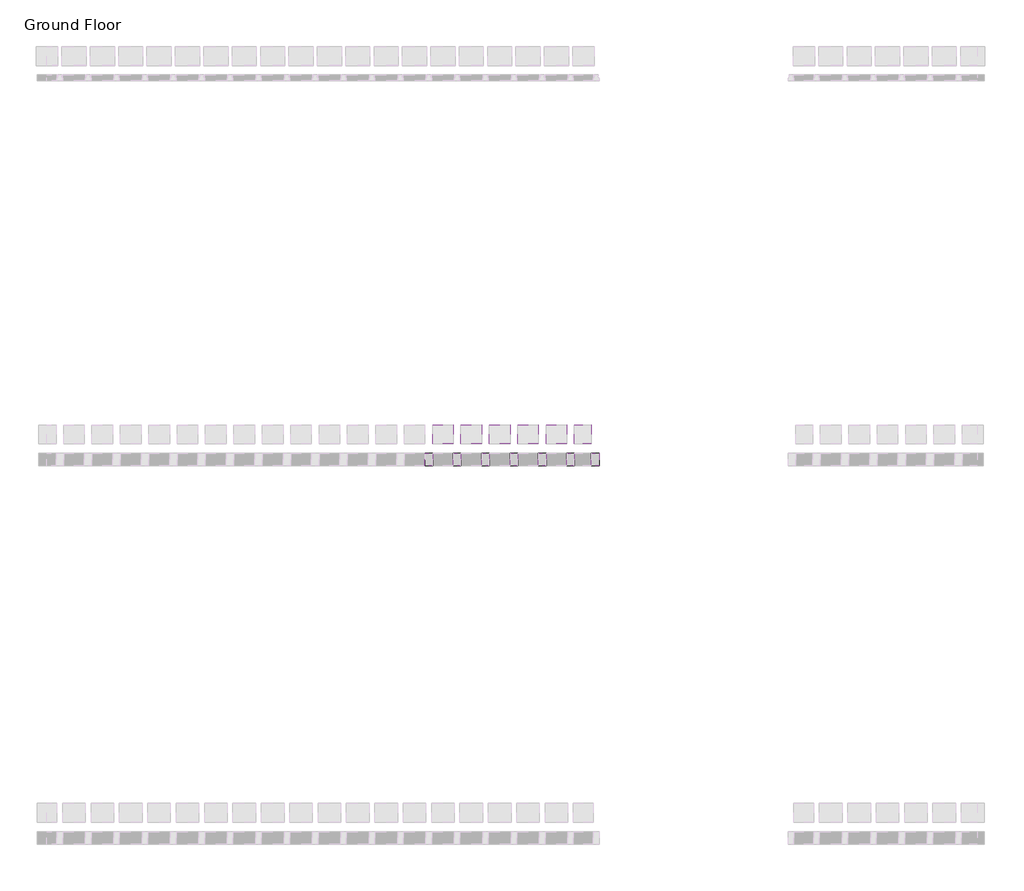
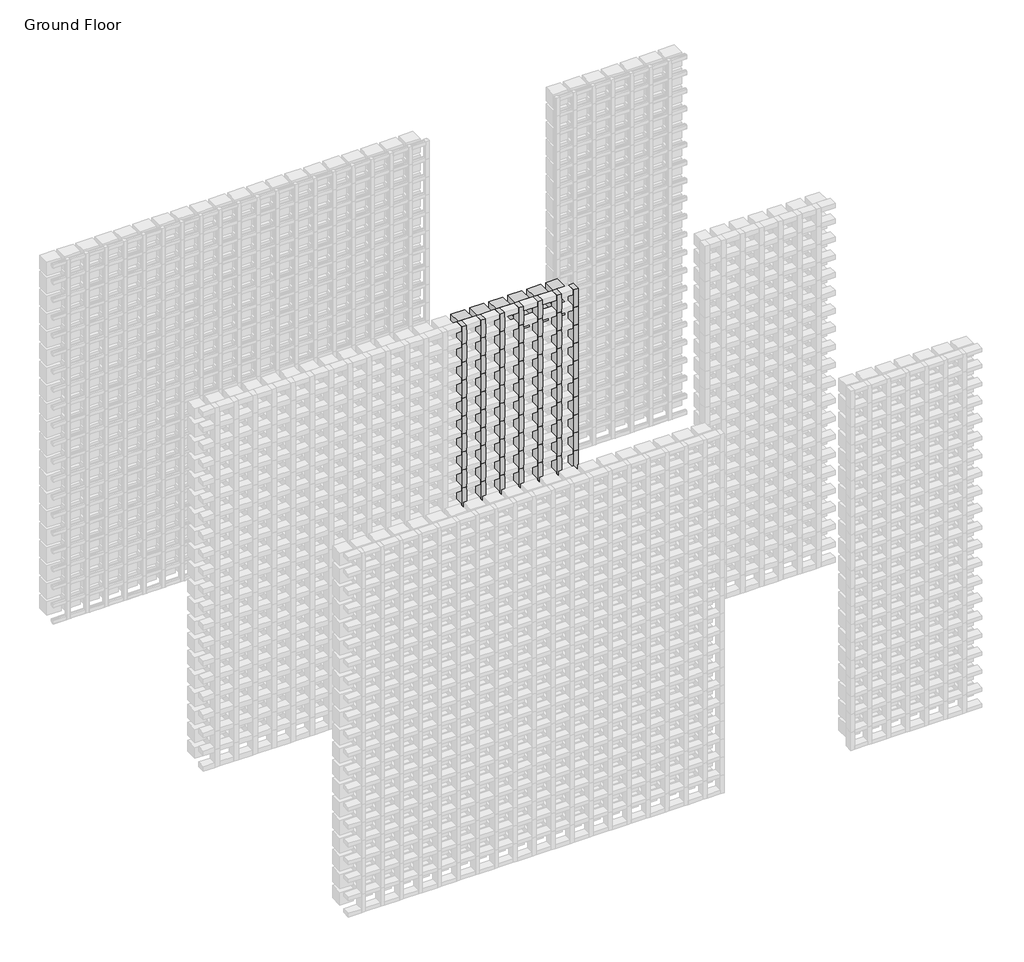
# One storey, part 142 of 350: 134 members, 9 plates.
"""IFC4 building model written with IfcOpenShell, lengths in millimetres."""

from ifc_helpers import new_model, si_unit, origin, place, context, project, spatial, transform, mapped, element, save
from components import rectangular_mullion_655930e9, rectangular_mullion_97e353d0, rectangular_mullion_f7732041, empty_system_panel_empty_571a4fa0, empty_system_panel_empty_3b500fad, empty_system_panel_empty_1faefc6a, empty_system_panel_empty_b6d7d726

model = new_model("IFC4")

# Units and contexts
model_context = context("Model", 3, world=origin())
ifc_project = project(units=[si_unit("LENGTHUNIT", "METRE", prefix="MILLI")], contexts=[model_context])

# Site, building, storey
site = spatial("IfcSite", under=ifc_project)
building = spatial("IfcBuilding", under=site)
storey = spatial("IfcBuildingStorey", under=building, Name="Ground Floor", Elevation=0.0)

# Members
placement = place(None, origin())
rectangular_mullion_shape = rectangular_mullion_655930e9(model_context)
element("IfcMember", 1, ObjectType="Rectangular Mullion : Batten_Timber_Modinex_Austratus_Grid_Fascia_40x65_Hemlock", at=placement, inside=storey, context=model_context, shape_type="MappedRepresentation", body=[
    mapped(rectangular_mullion_shape, transform((12016.4361642, 40968.2978302, 150.0), x_axis=(1.0, 0.0, 0.0), y_axis=(0.0, -1.0, 0.0), z_axis=(0.0, 0.0, -1.0))),
])
element("IfcMember", 2, ObjectType="Rectangular Mullion : Batten_Timber_Modinex_Austratus_Grid_Fascia_40x65_Hemlock", at=placement, inside=storey, context=model_context, shape_type="MappedRepresentation", body=[
    mapped(rectangular_mullion_shape, transform((12016.4361642, 40968.2978302, 300.0), x_axis=(1.0, 0.0, 0.0), y_axis=(0.0, -1.0, 0.0), z_axis=(0.0, 0.0, -1.0))),
])
element("IfcMember", 3, ObjectType="Rectangular Mullion : Batten_Timber_Modinex_Austratus_Grid_Fascia_40x65_Hemlock", at=placement, inside=storey, context=model_context, shape_type="MappedRepresentation", body=[
    mapped(rectangular_mullion_shape, transform((12016.4361642, 40968.2978302, 450.0), x_axis=(1.0, 0.0, 0.0), y_axis=(0.0, -1.0, 0.0), z_axis=(0.0, 0.0, -1.0))),
])
element("IfcMember", 4, ObjectType="Rectangular Mullion : Batten_Timber_Modinex_Austratus_Grid_Fascia_40x65_Hemlock", at=placement, inside=storey, context=model_context, shape_type="MappedRepresentation", body=[
    mapped(rectangular_mullion_shape, transform((12016.4361642, 40968.2978302, 600.0), x_axis=(1.0, 0.0, 0.0), y_axis=(0.0, -1.0, 0.0), z_axis=(0.0, 0.0, -1.0))),
])
element("IfcMember", 5, ObjectType="Rectangular Mullion : Batten_Timber_Modinex_Austratus_Grid_Fascia_40x65_Hemlock", at=placement, inside=storey, context=model_context, shape_type="MappedRepresentation", body=[
    mapped(rectangular_mullion_shape, transform((12016.4361642, 40968.2978302, 750.0), x_axis=(1.0, 0.0, 0.0), y_axis=(0.0, -1.0, 0.0), z_axis=(0.0, 0.0, -1.0))),
])
element("IfcMember", 6, ObjectType="Rectangular Mullion : Batten_Timber_Modinex_Austratus_Grid_Fascia_40x65_Hemlock", at=placement, inside=storey, context=model_context, shape_type="MappedRepresentation", body=[
    mapped(rectangular_mullion_shape, transform((12016.4361642, 40968.2978302, 900.0), x_axis=(1.0, 0.0, 0.0), y_axis=(0.0, -1.0, 0.0), z_axis=(0.0, 0.0, -1.0))),
])
element("IfcMember", 7, ObjectType="Rectangular Mullion : Batten_Timber_Modinex_Austratus_Grid_Fascia_40x65_Hemlock", at=placement, inside=storey, context=model_context, shape_type="MappedRepresentation", body=[
    mapped(rectangular_mullion_shape, transform((12016.4361642, 40968.2978302, 1050.0), x_axis=(1.0, 0.0, 0.0), y_axis=(0.0, -1.0, 0.0), z_axis=(0.0, 0.0, -1.0))),
])
element("IfcMember", 8, ObjectType="Rectangular Mullion : Batten_Timber_Modinex_Austratus_Grid_Fascia_40x65_Hemlock", at=placement, inside=storey, context=model_context, shape_type="MappedRepresentation", body=[
    mapped(rectangular_mullion_shape, transform((12016.4361642, 40968.2978302, 1200.0), x_axis=(1.0, 0.0, 0.0), y_axis=(0.0, -1.0, 0.0), z_axis=(0.0, 0.0, -1.0))),
])
element("IfcMember", 9, ObjectType="Rectangular Mullion : Batten_Timber_Modinex_Austratus_Grid_Fascia_40x65_Hemlock", at=placement, inside=storey, context=model_context, shape_type="MappedRepresentation", body=[
    mapped(rectangular_mullion_shape, transform((12016.4361642, 40968.2978302, 1350.0), x_axis=(1.0, 0.0, 0.0), y_axis=(0.0, -1.0, 0.0), z_axis=(0.0, 0.0, -1.0))),
])
element("IfcMember", 10, ObjectType="Rectangular Mullion : Batten_Timber_Modinex_Austratus_Grid_Fascia_40x65_Hemlock", at=placement, inside=storey, context=model_context, shape_type="MappedRepresentation", body=[
    mapped(rectangular_mullion_shape, transform((12016.4361642, 40968.2978302, 1500.0), x_axis=(1.0, 0.0, 0.0), y_axis=(0.0, -1.0, 0.0), z_axis=(0.0, 0.0, -1.0))),
])
element("IfcMember", 11, ObjectType="Rectangular Mullion : Batten_Timber_Modinex_Austratus_Grid_Fascia_40x65_Hemlock", at=placement, inside=storey, context=model_context, shape_type="MappedRepresentation", body=[
    mapped(rectangular_mullion_shape, transform((12016.4361642, 40968.2978302, 1650.0), x_axis=(1.0, 0.0, 0.0), y_axis=(0.0, -1.0, 0.0), z_axis=(0.0, 0.0, -1.0))),
])
element("IfcMember", 12, ObjectType="Rectangular Mullion : Batten_Timber_Modinex_Austratus_Grid_Fascia_40x65_Hemlock", at=placement, inside=storey, context=model_context, shape_type="MappedRepresentation", body=[
    mapped(rectangular_mullion_shape, transform((12016.4361642, 40968.2978302, 1800.0), x_axis=(1.0, 0.0, 0.0), y_axis=(0.0, -1.0, 0.0), z_axis=(0.0, 0.0, -1.0))),
])
element("IfcMember", 13, ObjectType="Rectangular Mullion : Batten_Timber_Modinex_Austratus_Grid_Fascia_40x65_Hemlock", at=placement, inside=storey, context=model_context, shape_type="MappedRepresentation", body=[
    mapped(rectangular_mullion_shape, transform((12016.4361642, 40968.2978302, 1950.0), x_axis=(1.0, 0.0, 0.0), y_axis=(0.0, -1.0, 0.0), z_axis=(0.0, 0.0, -1.0))),
])
element("IfcMember", 14, ObjectType="Rectangular Mullion : Batten_Timber_Modinex_Austratus_Grid_Fascia_40x65_Hemlock", at=placement, inside=storey, context=model_context, shape_type="MappedRepresentation", body=[
    mapped(rectangular_mullion_shape, transform((12016.4361642, 40968.2978302, 2100.0), x_axis=(1.0, 0.0, 0.0), y_axis=(0.0, -1.0, 0.0), z_axis=(0.0, 0.0, -1.0))),
])
element("IfcMember", 15, ObjectType="Rectangular Mullion : Batten_Timber_Modinex_Austratus_Grid_Fascia_40x65_Hemlock", at=placement, inside=storey, context=model_context, shape_type="MappedRepresentation", body=[
    mapped(rectangular_mullion_shape, transform((12016.4361642, 40968.2978302, 2250.0), x_axis=(1.0, 0.0, 0.0), y_axis=(0.0, -1.0, 0.0), z_axis=(0.0, 0.0, -1.0))),
])
element("IfcMember", 16, ObjectType="Rectangular Mullion : Batten_Timber_Modinex_Austratus_Grid_Fascia_40x65_Hemlock", at=placement, inside=storey, context=model_context, shape_type="MappedRepresentation", body=[
    mapped(rectangular_mullion_shape, transform((12016.4361642, 40968.2978302, 2400.0), x_axis=(1.0, 0.0, 0.0), y_axis=(0.0, -1.0, 0.0), z_axis=(0.0, 0.0, -1.0))),
])
element("IfcMember", 17, ObjectType="Rectangular Mullion : Batten_Timber_Modinex_Austratus_Grid_Fascia_40x65_Hemlock", at=placement, inside=storey, context=model_context, shape_type="MappedRepresentation", body=[
    mapped(rectangular_mullion_shape, transform((12016.4361642, 40968.2978302, 2550.0), x_axis=(1.0, 0.0, 0.0), y_axis=(0.0, -1.0, 0.0), z_axis=(0.0, 0.0, -1.0))),
])
element("IfcMember", 18, ObjectType="Rectangular Mullion : Batten_Timber_Modinex_Austratus_Grid_Fascia_40x65_Hemlock", at=placement, inside=storey, context=model_context, shape_type="MappedRepresentation", body=[
    mapped(rectangular_mullion_shape, transform((12016.4361642, 40968.2978302, 2700.0), x_axis=(1.0, 0.0, 0.0), y_axis=(0.0, -1.0, 0.0), z_axis=(0.0, 0.0, -1.0))),
])
element("IfcMember", 19, ObjectType="Rectangular Mullion : Batten_Timber_Modinex_Austratus_Grid_Fascia_40x65_Hemlock", at=placement, inside=storey, context=model_context, shape_type="MappedRepresentation", body=[
    mapped(rectangular_mullion_shape, transform((12166.4361642, 40968.2978302, 150.0), x_axis=(1.0, 0.0, 0.0), y_axis=(0.0, -1.0, 0.0), z_axis=(0.0, 0.0, -1.0))),
])
element("IfcMember", 20, ObjectType="Rectangular Mullion : Batten_Timber_Modinex_Austratus_Grid_Fascia_40x65_Hemlock", at=placement, inside=storey, context=model_context, shape_type="MappedRepresentation", body=[
    mapped(rectangular_mullion_shape, transform((12166.4361642, 40968.2978302, 300.0), x_axis=(1.0, 0.0, 0.0), y_axis=(0.0, -1.0, 0.0), z_axis=(0.0, 0.0, -1.0))),
])
element("IfcMember", 21, ObjectType="Rectangular Mullion : Batten_Timber_Modinex_Austratus_Grid_Fascia_40x65_Hemlock", at=placement, inside=storey, context=model_context, shape_type="MappedRepresentation", body=[
    mapped(rectangular_mullion_shape, transform((12166.4361642, 40968.2978302, 450.0), x_axis=(1.0, 0.0, 0.0), y_axis=(0.0, -1.0, 0.0), z_axis=(0.0, 0.0, -1.0))),
])
element("IfcMember", 22, ObjectType="Rectangular Mullion : Batten_Timber_Modinex_Austratus_Grid_Fascia_40x65_Hemlock", at=placement, inside=storey, context=model_context, shape_type="MappedRepresentation", body=[
    mapped(rectangular_mullion_shape, transform((12166.4361642, 40968.2978302, 600.0), x_axis=(1.0, 0.0, 0.0), y_axis=(0.0, -1.0, 0.0), z_axis=(0.0, 0.0, -1.0))),
])
element("IfcMember", 23, ObjectType="Rectangular Mullion : Batten_Timber_Modinex_Austratus_Grid_Fascia_40x65_Hemlock", at=placement, inside=storey, context=model_context, shape_type="MappedRepresentation", body=[
    mapped(rectangular_mullion_shape, transform((12166.4361642, 40968.2978302, 750.0), x_axis=(1.0, 0.0, 0.0), y_axis=(0.0, -1.0, 0.0), z_axis=(0.0, 0.0, -1.0))),
])
element("IfcMember", 24, ObjectType="Rectangular Mullion : Batten_Timber_Modinex_Austratus_Grid_Fascia_40x65_Hemlock", at=placement, inside=storey, context=model_context, shape_type="MappedRepresentation", body=[
    mapped(rectangular_mullion_shape, transform((12166.4361642, 40968.2978302, 900.0), x_axis=(1.0, 0.0, 0.0), y_axis=(0.0, -1.0, 0.0), z_axis=(0.0, 0.0, -1.0))),
])
element("IfcMember", 25, ObjectType="Rectangular Mullion : Batten_Timber_Modinex_Austratus_Grid_Fascia_40x65_Hemlock", at=placement, inside=storey, context=model_context, shape_type="MappedRepresentation", body=[
    mapped(rectangular_mullion_shape, transform((12166.4361642, 40968.2978302, 1050.0), x_axis=(1.0, 0.0, 0.0), y_axis=(0.0, -1.0, 0.0), z_axis=(0.0, 0.0, -1.0))),
])
element("IfcMember", 26, ObjectType="Rectangular Mullion : Batten_Timber_Modinex_Austratus_Grid_Fascia_40x65_Hemlock", at=placement, inside=storey, context=model_context, shape_type="MappedRepresentation", body=[
    mapped(rectangular_mullion_shape, transform((12166.4361642, 40968.2978302, 1200.0), x_axis=(1.0, 0.0, 0.0), y_axis=(0.0, -1.0, 0.0), z_axis=(0.0, 0.0, -1.0))),
])
element("IfcMember", 27, ObjectType="Rectangular Mullion : Batten_Timber_Modinex_Austratus_Grid_Fascia_40x65_Hemlock", at=placement, inside=storey, context=model_context, shape_type="MappedRepresentation", body=[
    mapped(rectangular_mullion_shape, transform((12166.4361642, 40968.2978302, 1350.0), x_axis=(1.0, 0.0, 0.0), y_axis=(0.0, -1.0, 0.0), z_axis=(0.0, 0.0, -1.0))),
])
element("IfcMember", 28, ObjectType="Rectangular Mullion : Batten_Timber_Modinex_Austratus_Grid_Fascia_40x65_Hemlock", at=placement, inside=storey, context=model_context, shape_type="MappedRepresentation", body=[
    mapped(rectangular_mullion_shape, transform((12166.4361642, 40968.2978302, 1500.0), x_axis=(1.0, 0.0, 0.0), y_axis=(0.0, -1.0, 0.0), z_axis=(0.0, 0.0, -1.0))),
])
element("IfcMember", 29, ObjectType="Rectangular Mullion : Batten_Timber_Modinex_Austratus_Grid_Fascia_40x65_Hemlock", at=placement, inside=storey, context=model_context, shape_type="MappedRepresentation", body=[
    mapped(rectangular_mullion_shape, transform((12166.4361642, 40968.2978302, 1650.0), x_axis=(1.0, 0.0, 0.0), y_axis=(0.0, -1.0, 0.0), z_axis=(0.0, 0.0, -1.0))),
])
element("IfcMember", 30, ObjectType="Rectangular Mullion : Batten_Timber_Modinex_Austratus_Grid_Fascia_40x65_Hemlock", at=placement, inside=storey, context=model_context, shape_type="MappedRepresentation", body=[
    mapped(rectangular_mullion_shape, transform((12166.4361642, 40968.2978302, 1800.0), x_axis=(1.0, 0.0, 0.0), y_axis=(0.0, -1.0, 0.0), z_axis=(0.0, 0.0, -1.0))),
])
element("IfcMember", 31, ObjectType="Rectangular Mullion : Batten_Timber_Modinex_Austratus_Grid_Fascia_40x65_Hemlock", at=placement, inside=storey, context=model_context, shape_type="MappedRepresentation", body=[
    mapped(rectangular_mullion_shape, transform((12166.4361642, 40968.2978302, 1950.0), x_axis=(1.0, 0.0, 0.0), y_axis=(0.0, -1.0, 0.0), z_axis=(0.0, 0.0, -1.0))),
])
element("IfcMember", 32, ObjectType="Rectangular Mullion : Batten_Timber_Modinex_Austratus_Grid_Fascia_40x65_Hemlock", at=placement, inside=storey, context=model_context, shape_type="MappedRepresentation", body=[
    mapped(rectangular_mullion_shape, transform((12166.4361642, 40968.2978302, 2100.0), x_axis=(1.0, 0.0, 0.0), y_axis=(0.0, -1.0, 0.0), z_axis=(0.0, 0.0, -1.0))),
])
element("IfcMember", 33, ObjectType="Rectangular Mullion : Batten_Timber_Modinex_Austratus_Grid_Fascia_40x65_Hemlock", at=placement, inside=storey, context=model_context, shape_type="MappedRepresentation", body=[
    mapped(rectangular_mullion_shape, transform((12166.4361642, 40968.2978302, 2250.0), x_axis=(1.0, 0.0, 0.0), y_axis=(0.0, -1.0, 0.0), z_axis=(0.0, 0.0, -1.0))),
])
element("IfcMember", 34, ObjectType="Rectangular Mullion : Batten_Timber_Modinex_Austratus_Grid_Fascia_40x65_Hemlock", at=placement, inside=storey, context=model_context, shape_type="MappedRepresentation", body=[
    mapped(rectangular_mullion_shape, transform((12166.4361642, 40968.2978302, 2400.0), x_axis=(1.0, 0.0, 0.0), y_axis=(0.0, -1.0, 0.0), z_axis=(0.0, 0.0, -1.0))),
])
element("IfcMember", 35, ObjectType="Rectangular Mullion : Batten_Timber_Modinex_Austratus_Grid_Fascia_40x65_Hemlock", at=placement, inside=storey, context=model_context, shape_type="MappedRepresentation", body=[
    mapped(rectangular_mullion_shape, transform((12166.4361642, 40968.2978302, 2550.0), x_axis=(1.0, 0.0, 0.0), y_axis=(0.0, -1.0, 0.0), z_axis=(0.0, 0.0, -1.0))),
])
element("IfcMember", 36, ObjectType="Rectangular Mullion : Batten_Timber_Modinex_Austratus_Grid_Fascia_40x65_Hemlock", at=placement, inside=storey, context=model_context, shape_type="MappedRepresentation", body=[
    mapped(rectangular_mullion_shape, transform((12166.4361642, 40968.2978302, 2700.0), x_axis=(1.0, 0.0, 0.0), y_axis=(0.0, -1.0, 0.0), z_axis=(0.0, 0.0, -1.0))),
])
element("IfcMember", 37, ObjectType="Rectangular Mullion : Batten_Timber_Modinex_Austratus_Grid_Fascia_40x65_Hemlock", at=placement, inside=storey, context=model_context, shape_type="MappedRepresentation", body=[
    mapped(rectangular_mullion_shape, transform((12316.4361642, 40968.2978302, 150.0), x_axis=(1.0, 0.0, 0.0), y_axis=(0.0, -1.0, 0.0), z_axis=(0.0, 0.0, -1.0))),
])
element("IfcMember", 38, ObjectType="Rectangular Mullion : Batten_Timber_Modinex_Austratus_Grid_Fascia_40x65_Hemlock", at=placement, inside=storey, context=model_context, shape_type="MappedRepresentation", body=[
    mapped(rectangular_mullion_shape, transform((12316.4361642, 40968.2978302, 300.0), x_axis=(1.0, 0.0, 0.0), y_axis=(0.0, -1.0, 0.0), z_axis=(0.0, 0.0, -1.0))),
])
element("IfcMember", 39, ObjectType="Rectangular Mullion : Batten_Timber_Modinex_Austratus_Grid_Fascia_40x65_Hemlock", at=placement, inside=storey, context=model_context, shape_type="MappedRepresentation", body=[
    mapped(rectangular_mullion_shape, transform((12316.4361642, 40968.2978302, 450.0), x_axis=(1.0, 0.0, 0.0), y_axis=(0.0, -1.0, 0.0), z_axis=(0.0, 0.0, -1.0))),
])
element("IfcMember", 40, ObjectType="Rectangular Mullion : Batten_Timber_Modinex_Austratus_Grid_Fascia_40x65_Hemlock", at=placement, inside=storey, context=model_context, shape_type="MappedRepresentation", body=[
    mapped(rectangular_mullion_shape, transform((12316.4361642, 40968.2978302, 600.0), x_axis=(1.0, 0.0, 0.0), y_axis=(0.0, -1.0, 0.0), z_axis=(0.0, 0.0, -1.0))),
])
element("IfcMember", 41, ObjectType="Rectangular Mullion : Batten_Timber_Modinex_Austratus_Grid_Fascia_40x65_Hemlock", at=placement, inside=storey, context=model_context, shape_type="MappedRepresentation", body=[
    mapped(rectangular_mullion_shape, transform((12316.4361642, 40968.2978302, 750.0), x_axis=(1.0, 0.0, 0.0), y_axis=(0.0, -1.0, 0.0), z_axis=(0.0, 0.0, -1.0))),
])
element("IfcMember", 42, ObjectType="Rectangular Mullion : Batten_Timber_Modinex_Austratus_Grid_Fascia_40x65_Hemlock", at=placement, inside=storey, context=model_context, shape_type="MappedRepresentation", body=[
    mapped(rectangular_mullion_shape, transform((12316.4361642, 40968.2978302, 900.0), x_axis=(1.0, 0.0, 0.0), y_axis=(0.0, -1.0, 0.0), z_axis=(0.0, 0.0, -1.0))),
])
element("IfcMember", 43, ObjectType="Rectangular Mullion : Batten_Timber_Modinex_Austratus_Grid_Fascia_40x65_Hemlock", at=placement, inside=storey, context=model_context, shape_type="MappedRepresentation", body=[
    mapped(rectangular_mullion_shape, transform((12316.4361642, 40968.2978302, 1050.0), x_axis=(1.0, 0.0, 0.0), y_axis=(0.0, -1.0, 0.0), z_axis=(0.0, 0.0, -1.0))),
])
element("IfcMember", 44, ObjectType="Rectangular Mullion : Batten_Timber_Modinex_Austratus_Grid_Fascia_40x65_Hemlock", at=placement, inside=storey, context=model_context, shape_type="MappedRepresentation", body=[
    mapped(rectangular_mullion_shape, transform((12316.4361642, 40968.2978302, 1200.0), x_axis=(1.0, 0.0, 0.0), y_axis=(0.0, -1.0, 0.0), z_axis=(0.0, 0.0, -1.0))),
])
element("IfcMember", 45, ObjectType="Rectangular Mullion : Batten_Timber_Modinex_Austratus_Grid_Fascia_40x65_Hemlock", at=placement, inside=storey, context=model_context, shape_type="MappedRepresentation", body=[
    mapped(rectangular_mullion_shape, transform((12316.4361642, 40968.2978302, 1350.0), x_axis=(1.0, 0.0, 0.0), y_axis=(0.0, -1.0, 0.0), z_axis=(0.0, 0.0, -1.0))),
])
element("IfcMember", 46, ObjectType="Rectangular Mullion : Batten_Timber_Modinex_Austratus_Grid_Fascia_40x65_Hemlock", at=placement, inside=storey, context=model_context, shape_type="MappedRepresentation", body=[
    mapped(rectangular_mullion_shape, transform((12316.4361642, 40968.2978302, 1500.0), x_axis=(1.0, 0.0, 0.0), y_axis=(0.0, -1.0, 0.0), z_axis=(0.0, 0.0, -1.0))),
])
element("IfcMember", 47, ObjectType="Rectangular Mullion : Batten_Timber_Modinex_Austratus_Grid_Fascia_40x65_Hemlock", at=placement, inside=storey, context=model_context, shape_type="MappedRepresentation", body=[
    mapped(rectangular_mullion_shape, transform((12316.4361642, 40968.2978302, 1650.0), x_axis=(1.0, 0.0, 0.0), y_axis=(0.0, -1.0, 0.0), z_axis=(0.0, 0.0, -1.0))),
])
element("IfcMember", 48, ObjectType="Rectangular Mullion : Batten_Timber_Modinex_Austratus_Grid_Fascia_40x65_Hemlock", at=placement, inside=storey, context=model_context, shape_type="MappedRepresentation", body=[
    mapped(rectangular_mullion_shape, transform((12316.4361642, 40968.2978302, 1800.0), x_axis=(1.0, 0.0, 0.0), y_axis=(0.0, -1.0, 0.0), z_axis=(0.0, 0.0, -1.0))),
])
element("IfcMember", 49, ObjectType="Rectangular Mullion : Batten_Timber_Modinex_Austratus_Grid_Fascia_40x65_Hemlock", at=placement, inside=storey, context=model_context, shape_type="MappedRepresentation", body=[
    mapped(rectangular_mullion_shape, transform((12316.4361642, 40968.2978302, 1950.0), x_axis=(1.0, 0.0, 0.0), y_axis=(0.0, -1.0, 0.0), z_axis=(0.0, 0.0, -1.0))),
])
element("IfcMember", 50, ObjectType="Rectangular Mullion : Batten_Timber_Modinex_Austratus_Grid_Fascia_40x65_Hemlock", at=placement, inside=storey, context=model_context, shape_type="MappedRepresentation", body=[
    mapped(rectangular_mullion_shape, transform((12316.4361642, 40968.2978302, 2100.0), x_axis=(1.0, 0.0, 0.0), y_axis=(0.0, -1.0, 0.0), z_axis=(0.0, 0.0, -1.0))),
])
element("IfcMember", 51, ObjectType="Rectangular Mullion : Batten_Timber_Modinex_Austratus_Grid_Fascia_40x65_Hemlock", at=placement, inside=storey, context=model_context, shape_type="MappedRepresentation", body=[
    mapped(rectangular_mullion_shape, transform((12316.4361642, 40968.2978302, 2250.0), x_axis=(1.0, 0.0, 0.0), y_axis=(0.0, -1.0, 0.0), z_axis=(0.0, 0.0, -1.0))),
])
element("IfcMember", 52, ObjectType="Rectangular Mullion : Batten_Timber_Modinex_Austratus_Grid_Fascia_40x65_Hemlock", at=placement, inside=storey, context=model_context, shape_type="MappedRepresentation", body=[
    mapped(rectangular_mullion_shape, transform((12316.4361642, 40968.2978302, 2400.0), x_axis=(1.0, 0.0, 0.0), y_axis=(0.0, -1.0, 0.0), z_axis=(0.0, 0.0, -1.0))),
])
element("IfcMember", 53, ObjectType="Rectangular Mullion : Batten_Timber_Modinex_Austratus_Grid_Fascia_40x65_Hemlock", at=placement, inside=storey, context=model_context, shape_type="MappedRepresentation", body=[
    mapped(rectangular_mullion_shape, transform((12316.4361642, 40968.2978302, 2550.0), x_axis=(1.0, 0.0, 0.0), y_axis=(0.0, -1.0, 0.0), z_axis=(0.0, 0.0, -1.0))),
])
element("IfcMember", 54, ObjectType="Rectangular Mullion : Batten_Timber_Modinex_Austratus_Grid_Fascia_40x65_Hemlock", at=placement, inside=storey, context=model_context, shape_type="MappedRepresentation", body=[
    mapped(rectangular_mullion_shape, transform((12316.4361642, 40968.2978302, 2700.0), x_axis=(1.0, 0.0, 0.0), y_axis=(0.0, -1.0, 0.0), z_axis=(0.0, 0.0, -1.0))),
])
element("IfcMember", 55, ObjectType="Rectangular Mullion : Batten_Timber_Modinex_Austratus_Grid_Fascia_40x65_Hemlock", at=placement, inside=storey, context=model_context, shape_type="MappedRepresentation", body=[
    mapped(rectangular_mullion_shape, transform((12466.4361642, 40968.2978302, 150.0), x_axis=(1.0, 0.0, 0.0), y_axis=(0.0, -1.0, 0.0), z_axis=(0.0, 0.0, -1.0))),
])
element("IfcMember", 56, ObjectType="Rectangular Mullion : Batten_Timber_Modinex_Austratus_Grid_Fascia_40x65_Hemlock", at=placement, inside=storey, context=model_context, shape_type="MappedRepresentation", body=[
    mapped(rectangular_mullion_shape, transform((12466.4361642, 40968.2978302, 300.0), x_axis=(1.0, 0.0, 0.0), y_axis=(0.0, -1.0, 0.0), z_axis=(0.0, 0.0, -1.0))),
])
element("IfcMember", 57, ObjectType="Rectangular Mullion : Batten_Timber_Modinex_Austratus_Grid_Fascia_40x65_Hemlock", at=placement, inside=storey, context=model_context, shape_type="MappedRepresentation", body=[
    mapped(rectangular_mullion_shape, transform((12466.4361642, 40968.2978302, 450.0), x_axis=(1.0, 0.0, 0.0), y_axis=(0.0, -1.0, 0.0), z_axis=(0.0, 0.0, -1.0))),
])
element("IfcMember", 58, ObjectType="Rectangular Mullion : Batten_Timber_Modinex_Austratus_Grid_Fascia_40x65_Hemlock", at=placement, inside=storey, context=model_context, shape_type="MappedRepresentation", body=[
    mapped(rectangular_mullion_shape, transform((12466.4361642, 40968.2978302, 600.0), x_axis=(1.0, 0.0, 0.0), y_axis=(0.0, -1.0, 0.0), z_axis=(0.0, 0.0, -1.0))),
])
element("IfcMember", 59, ObjectType="Rectangular Mullion : Batten_Timber_Modinex_Austratus_Grid_Fascia_40x65_Hemlock", at=placement, inside=storey, context=model_context, shape_type="MappedRepresentation", body=[
    mapped(rectangular_mullion_shape, transform((12466.4361642, 40968.2978302, 750.0), x_axis=(1.0, 0.0, 0.0), y_axis=(0.0, -1.0, 0.0), z_axis=(0.0, 0.0, -1.0))),
])
element("IfcMember", 60, ObjectType="Rectangular Mullion : Batten_Timber_Modinex_Austratus_Grid_Fascia_40x65_Hemlock", at=placement, inside=storey, context=model_context, shape_type="MappedRepresentation", body=[
    mapped(rectangular_mullion_shape, transform((12466.4361642, 40968.2978302, 900.0), x_axis=(1.0, 0.0, 0.0), y_axis=(0.0, -1.0, 0.0), z_axis=(0.0, 0.0, -1.0))),
])
element("IfcMember", 61, ObjectType="Rectangular Mullion : Batten_Timber_Modinex_Austratus_Grid_Fascia_40x65_Hemlock", at=placement, inside=storey, context=model_context, shape_type="MappedRepresentation", body=[
    mapped(rectangular_mullion_shape, transform((12466.4361642, 40968.2978302, 1050.0), x_axis=(1.0, 0.0, 0.0), y_axis=(0.0, -1.0, 0.0), z_axis=(0.0, 0.0, -1.0))),
])
element("IfcMember", 62, ObjectType="Rectangular Mullion : Batten_Timber_Modinex_Austratus_Grid_Fascia_40x65_Hemlock", at=placement, inside=storey, context=model_context, shape_type="MappedRepresentation", body=[
    mapped(rectangular_mullion_shape, transform((12466.4361642, 40968.2978302, 1200.0), x_axis=(1.0, 0.0, 0.0), y_axis=(0.0, -1.0, 0.0), z_axis=(0.0, 0.0, -1.0))),
])
element("IfcMember", 63, ObjectType="Rectangular Mullion : Batten_Timber_Modinex_Austratus_Grid_Fascia_40x65_Hemlock", at=placement, inside=storey, context=model_context, shape_type="MappedRepresentation", body=[
    mapped(rectangular_mullion_shape, transform((12466.4361642, 40968.2978302, 1350.0), x_axis=(1.0, 0.0, 0.0), y_axis=(0.0, -1.0, 0.0), z_axis=(0.0, 0.0, -1.0))),
])
element("IfcMember", 64, ObjectType="Rectangular Mullion : Batten_Timber_Modinex_Austratus_Grid_Fascia_40x65_Hemlock", at=placement, inside=storey, context=model_context, shape_type="MappedRepresentation", body=[
    mapped(rectangular_mullion_shape, transform((12466.4361642, 40968.2978302, 1500.0), x_axis=(1.0, 0.0, 0.0), y_axis=(0.0, -1.0, 0.0), z_axis=(0.0, 0.0, -1.0))),
])
element("IfcMember", 65, ObjectType="Rectangular Mullion : Batten_Timber_Modinex_Austratus_Grid_Fascia_40x65_Hemlock", at=placement, inside=storey, context=model_context, shape_type="MappedRepresentation", body=[
    mapped(rectangular_mullion_shape, transform((12466.4361642, 40968.2978302, 1650.0), x_axis=(1.0, 0.0, 0.0), y_axis=(0.0, -1.0, 0.0), z_axis=(0.0, 0.0, -1.0))),
])
element("IfcMember", 66, ObjectType="Rectangular Mullion : Batten_Timber_Modinex_Austratus_Grid_Fascia_40x65_Hemlock", at=placement, inside=storey, context=model_context, shape_type="MappedRepresentation", body=[
    mapped(rectangular_mullion_shape, transform((12466.4361642, 40968.2978302, 1800.0), x_axis=(1.0, 0.0, 0.0), y_axis=(0.0, -1.0, 0.0), z_axis=(0.0, 0.0, -1.0))),
])
element("IfcMember", 67, ObjectType="Rectangular Mullion : Batten_Timber_Modinex_Austratus_Grid_Fascia_40x65_Hemlock", at=placement, inside=storey, context=model_context, shape_type="MappedRepresentation", body=[
    mapped(rectangular_mullion_shape, transform((12466.4361642, 40968.2978302, 1950.0), x_axis=(1.0, 0.0, 0.0), y_axis=(0.0, -1.0, 0.0), z_axis=(0.0, 0.0, -1.0))),
])
element("IfcMember", 68, ObjectType="Rectangular Mullion : Batten_Timber_Modinex_Austratus_Grid_Fascia_40x65_Hemlock", at=placement, inside=storey, context=model_context, shape_type="MappedRepresentation", body=[
    mapped(rectangular_mullion_shape, transform((12466.4361642, 40968.2978302, 2100.0), x_axis=(1.0, 0.0, 0.0), y_axis=(0.0, -1.0, 0.0), z_axis=(0.0, 0.0, -1.0))),
])
element("IfcMember", 69, ObjectType="Rectangular Mullion : Batten_Timber_Modinex_Austratus_Grid_Fascia_40x65_Hemlock", at=placement, inside=storey, context=model_context, shape_type="MappedRepresentation", body=[
    mapped(rectangular_mullion_shape, transform((12466.4361642, 40968.2978302, 2250.0), x_axis=(1.0, 0.0, 0.0), y_axis=(0.0, -1.0, 0.0), z_axis=(0.0, 0.0, -1.0))),
])
element("IfcMember", 70, ObjectType="Rectangular Mullion : Batten_Timber_Modinex_Austratus_Grid_Fascia_40x65_Hemlock", at=placement, inside=storey, context=model_context, shape_type="MappedRepresentation", body=[
    mapped(rectangular_mullion_shape, transform((12466.4361642, 40968.2978302, 2400.0), x_axis=(1.0, 0.0, 0.0), y_axis=(0.0, -1.0, 0.0), z_axis=(0.0, 0.0, -1.0))),
])
element("IfcMember", 71, ObjectType="Rectangular Mullion : Batten_Timber_Modinex_Austratus_Grid_Fascia_40x65_Hemlock", at=placement, inside=storey, context=model_context, shape_type="MappedRepresentation", body=[
    mapped(rectangular_mullion_shape, transform((12466.4361642, 40968.2978302, 2550.0), x_axis=(1.0, 0.0, 0.0), y_axis=(0.0, -1.0, 0.0), z_axis=(0.0, 0.0, -1.0))),
])
element("IfcMember", 72, ObjectType="Rectangular Mullion : Batten_Timber_Modinex_Austratus_Grid_Fascia_40x65_Hemlock", at=placement, inside=storey, context=model_context, shape_type="MappedRepresentation", body=[
    mapped(rectangular_mullion_shape, transform((12466.4361642, 40968.2978302, 2700.0), x_axis=(1.0, 0.0, 0.0), y_axis=(0.0, -1.0, 0.0), z_axis=(0.0, 0.0, -1.0))),
])
element("IfcMember", 73, ObjectType="Rectangular Mullion : Batten_Timber_Modinex_Austratus_Grid_Fascia_40x65_Hemlock", at=placement, inside=storey, context=model_context, shape_type="MappedRepresentation", body=[
    mapped(rectangular_mullion_shape, transform((12616.4361642, 40968.2978302, 150.0), x_axis=(1.0, 0.0, 0.0), y_axis=(0.0, -1.0, 0.0), z_axis=(0.0, 0.0, -1.0))),
])
element("IfcMember", 74, ObjectType="Rectangular Mullion : Batten_Timber_Modinex_Austratus_Grid_Fascia_40x65_Hemlock", at=placement, inside=storey, context=model_context, shape_type="MappedRepresentation", body=[
    mapped(rectangular_mullion_shape, transform((12616.4361642, 40968.2978302, 300.0), x_axis=(1.0, 0.0, 0.0), y_axis=(0.0, -1.0, 0.0), z_axis=(0.0, 0.0, -1.0))),
])
element("IfcMember", 75, ObjectType="Rectangular Mullion : Batten_Timber_Modinex_Austratus_Grid_Fascia_40x65_Hemlock", at=placement, inside=storey, context=model_context, shape_type="MappedRepresentation", body=[
    mapped(rectangular_mullion_shape, transform((12616.4361642, 40968.2978302, 450.0), x_axis=(1.0, 0.0, 0.0), y_axis=(0.0, -1.0, 0.0), z_axis=(0.0, 0.0, -1.0))),
])
element("IfcMember", 76, ObjectType="Rectangular Mullion : Batten_Timber_Modinex_Austratus_Grid_Fascia_40x65_Hemlock", at=placement, inside=storey, context=model_context, shape_type="MappedRepresentation", body=[
    mapped(rectangular_mullion_shape, transform((12616.4361642, 40968.2978302, 600.0), x_axis=(1.0, 0.0, 0.0), y_axis=(0.0, -1.0, 0.0), z_axis=(0.0, 0.0, -1.0))),
])
element("IfcMember", 77, ObjectType="Rectangular Mullion : Batten_Timber_Modinex_Austratus_Grid_Fascia_40x65_Hemlock", at=placement, inside=storey, context=model_context, shape_type="MappedRepresentation", body=[
    mapped(rectangular_mullion_shape, transform((12616.4361642, 40968.2978302, 750.0), x_axis=(1.0, 0.0, 0.0), y_axis=(0.0, -1.0, 0.0), z_axis=(0.0, 0.0, -1.0))),
])
element("IfcMember", 78, ObjectType="Rectangular Mullion : Batten_Timber_Modinex_Austratus_Grid_Fascia_40x65_Hemlock", at=placement, inside=storey, context=model_context, shape_type="MappedRepresentation", body=[
    mapped(rectangular_mullion_shape, transform((12616.4361642, 40968.2978302, 900.0), x_axis=(1.0, 0.0, 0.0), y_axis=(0.0, -1.0, 0.0), z_axis=(0.0, 0.0, -1.0))),
])
element("IfcMember", 79, ObjectType="Rectangular Mullion : Batten_Timber_Modinex_Austratus_Grid_Fascia_40x65_Hemlock", at=placement, inside=storey, context=model_context, shape_type="MappedRepresentation", body=[
    mapped(rectangular_mullion_shape, transform((12616.4361642, 40968.2978302, 1050.0), x_axis=(1.0, 0.0, 0.0), y_axis=(0.0, -1.0, 0.0), z_axis=(0.0, 0.0, -1.0))),
])
element("IfcMember", 80, ObjectType="Rectangular Mullion : Batten_Timber_Modinex_Austratus_Grid_Fascia_40x65_Hemlock", at=placement, inside=storey, context=model_context, shape_type="MappedRepresentation", body=[
    mapped(rectangular_mullion_shape, transform((12616.4361642, 40968.2978302, 1200.0), x_axis=(1.0, 0.0, 0.0), y_axis=(0.0, -1.0, 0.0), z_axis=(0.0, 0.0, -1.0))),
])
element("IfcMember", 81, ObjectType="Rectangular Mullion : Batten_Timber_Modinex_Austratus_Grid_Fascia_40x65_Hemlock", at=placement, inside=storey, context=model_context, shape_type="MappedRepresentation", body=[
    mapped(rectangular_mullion_shape, transform((12616.4361642, 40968.2978302, 1350.0), x_axis=(1.0, 0.0, 0.0), y_axis=(0.0, -1.0, 0.0), z_axis=(0.0, 0.0, -1.0))),
])
element("IfcMember", 82, ObjectType="Rectangular Mullion : Batten_Timber_Modinex_Austratus_Grid_Fascia_40x65_Hemlock", at=placement, inside=storey, context=model_context, shape_type="MappedRepresentation", body=[
    mapped(rectangular_mullion_shape, transform((12616.4361642, 40968.2978302, 1500.0), x_axis=(1.0, 0.0, 0.0), y_axis=(0.0, -1.0, 0.0), z_axis=(0.0, 0.0, -1.0))),
])
element("IfcMember", 83, ObjectType="Rectangular Mullion : Batten_Timber_Modinex_Austratus_Grid_Fascia_40x65_Hemlock", at=placement, inside=storey, context=model_context, shape_type="MappedRepresentation", body=[
    mapped(rectangular_mullion_shape, transform((12616.4361642, 40968.2978302, 1650.0), x_axis=(1.0, 0.0, 0.0), y_axis=(0.0, -1.0, 0.0), z_axis=(0.0, 0.0, -1.0))),
])
element("IfcMember", 84, ObjectType="Rectangular Mullion : Batten_Timber_Modinex_Austratus_Grid_Fascia_40x65_Hemlock", at=placement, inside=storey, context=model_context, shape_type="MappedRepresentation", body=[
    mapped(rectangular_mullion_shape, transform((12616.4361642, 40968.2978302, 1800.0), x_axis=(1.0, 0.0, 0.0), y_axis=(0.0, -1.0, 0.0), z_axis=(0.0, 0.0, -1.0))),
])
element("IfcMember", 85, ObjectType="Rectangular Mullion : Batten_Timber_Modinex_Austratus_Grid_Fascia_40x65_Hemlock", at=placement, inside=storey, context=model_context, shape_type="MappedRepresentation", body=[
    mapped(rectangular_mullion_shape, transform((12616.4361642, 40968.2978302, 1950.0), x_axis=(1.0, 0.0, 0.0), y_axis=(0.0, -1.0, 0.0), z_axis=(0.0, 0.0, -1.0))),
])
element("IfcMember", 86, ObjectType="Rectangular Mullion : Batten_Timber_Modinex_Austratus_Grid_Fascia_40x65_Hemlock", at=placement, inside=storey, context=model_context, shape_type="MappedRepresentation", body=[
    mapped(rectangular_mullion_shape, transform((12616.4361642, 40968.2978302, 2100.0), x_axis=(1.0, 0.0, 0.0), y_axis=(0.0, -1.0, 0.0), z_axis=(0.0, 0.0, -1.0))),
])
element("IfcMember", 87, ObjectType="Rectangular Mullion : Batten_Timber_Modinex_Austratus_Grid_Fascia_40x65_Hemlock", at=placement, inside=storey, context=model_context, shape_type="MappedRepresentation", body=[
    mapped(rectangular_mullion_shape, transform((12616.4361642, 40968.2978302, 2250.0), x_axis=(1.0, 0.0, 0.0), y_axis=(0.0, -1.0, 0.0), z_axis=(0.0, 0.0, -1.0))),
])
element("IfcMember", 88, ObjectType="Rectangular Mullion : Batten_Timber_Modinex_Austratus_Grid_Fascia_40x65_Hemlock", at=placement, inside=storey, context=model_context, shape_type="MappedRepresentation", body=[
    mapped(rectangular_mullion_shape, transform((12616.4361642, 40968.2978302, 2400.0), x_axis=(1.0, 0.0, 0.0), y_axis=(0.0, -1.0, 0.0), z_axis=(0.0, 0.0, -1.0))),
])
element("IfcMember", 89, ObjectType="Rectangular Mullion : Batten_Timber_Modinex_Austratus_Grid_Fascia_40x65_Hemlock", at=placement, inside=storey, context=model_context, shape_type="MappedRepresentation", body=[
    mapped(rectangular_mullion_shape, transform((12616.4361642, 40968.2978302, 2550.0), x_axis=(1.0, 0.0, 0.0), y_axis=(0.0, -1.0, 0.0), z_axis=(0.0, 0.0, -1.0))),
])
element("IfcMember", 90, ObjectType="Rectangular Mullion : Batten_Timber_Modinex_Austratus_Grid_Fascia_40x65_Hemlock", at=placement, inside=storey, context=model_context, shape_type="MappedRepresentation", body=[
    mapped(rectangular_mullion_shape, transform((12616.4361642, 40968.2978302, 2700.0), x_axis=(1.0, 0.0, 0.0), y_axis=(0.0, -1.0, 0.0), z_axis=(0.0, 0.0, -1.0))),
])
element("IfcMember", 91, ObjectType="Rectangular Mullion : Batten_Timber_Modinex_Austratus_Grid_Fascia_40x65_Hemlock", at=placement, inside=storey, context=model_context, shape_type="MappedRepresentation", body=[
    mapped(rectangular_mullion_shape, transform((12766.4361642, 40968.2978302, 150.0), x_axis=(1.0, 0.0, 0.0), y_axis=(0.0, -1.0, 0.0), z_axis=(0.0, 0.0, -1.0))),
])
element("IfcMember", 92, ObjectType="Rectangular Mullion : Batten_Timber_Modinex_Austratus_Grid_Fascia_40x65_Hemlock", at=placement, inside=storey, context=model_context, shape_type="MappedRepresentation", body=[
    mapped(rectangular_mullion_shape, transform((12766.4361642, 40968.2978302, 300.0), x_axis=(1.0, 0.0, 0.0), y_axis=(0.0, -1.0, 0.0), z_axis=(0.0, 0.0, -1.0))),
])
element("IfcMember", 93, ObjectType="Rectangular Mullion : Batten_Timber_Modinex_Austratus_Grid_Fascia_40x65_Hemlock", at=placement, inside=storey, context=model_context, shape_type="MappedRepresentation", body=[
    mapped(rectangular_mullion_shape, transform((12766.4361642, 40968.2978302, 450.0), x_axis=(1.0, 0.0, 0.0), y_axis=(0.0, -1.0, 0.0), z_axis=(0.0, 0.0, -1.0))),
])
element("IfcMember", 94, ObjectType="Rectangular Mullion : Batten_Timber_Modinex_Austratus_Grid_Fascia_40x65_Hemlock", at=placement, inside=storey, context=model_context, shape_type="MappedRepresentation", body=[
    mapped(rectangular_mullion_shape, transform((12766.4361642, 40968.2978302, 600.0), x_axis=(1.0, 0.0, 0.0), y_axis=(0.0, -1.0, 0.0), z_axis=(0.0, 0.0, -1.0))),
])
element("IfcMember", 95, ObjectType="Rectangular Mullion : Batten_Timber_Modinex_Austratus_Grid_Fascia_40x65_Hemlock", at=placement, inside=storey, context=model_context, shape_type="MappedRepresentation", body=[
    mapped(rectangular_mullion_shape, transform((12766.4361642, 40968.2978302, 750.0), x_axis=(1.0, 0.0, 0.0), y_axis=(0.0, -1.0, 0.0), z_axis=(0.0, 0.0, -1.0))),
])
element("IfcMember", 96, ObjectType="Rectangular Mullion : Batten_Timber_Modinex_Austratus_Grid_Fascia_40x65_Hemlock", at=placement, inside=storey, context=model_context, shape_type="MappedRepresentation", body=[
    mapped(rectangular_mullion_shape, transform((12766.4361642, 40968.2978302, 900.0), x_axis=(1.0, 0.0, 0.0), y_axis=(0.0, -1.0, 0.0), z_axis=(0.0, 0.0, -1.0))),
])
element("IfcMember", 97, ObjectType="Rectangular Mullion : Batten_Timber_Modinex_Austratus_Grid_Fascia_40x65_Hemlock", at=placement, inside=storey, context=model_context, shape_type="MappedRepresentation", body=[
    mapped(rectangular_mullion_shape, transform((12766.4361642, 40968.2978302, 1050.0), x_axis=(1.0, 0.0, 0.0), y_axis=(0.0, -1.0, 0.0), z_axis=(0.0, 0.0, -1.0))),
])
element("IfcMember", 98, ObjectType="Rectangular Mullion : Batten_Timber_Modinex_Austratus_Grid_Fascia_40x65_Hemlock", at=placement, inside=storey, context=model_context, shape_type="MappedRepresentation", body=[
    mapped(rectangular_mullion_shape, transform((12766.4361642, 40968.2978302, 1200.0), x_axis=(1.0, 0.0, 0.0), y_axis=(0.0, -1.0, 0.0), z_axis=(0.0, 0.0, -1.0))),
])
element("IfcMember", 99, ObjectType="Rectangular Mullion : Batten_Timber_Modinex_Austratus_Grid_Fascia_40x65_Hemlock", at=placement, inside=storey, context=model_context, shape_type="MappedRepresentation", body=[
    mapped(rectangular_mullion_shape, transform((12766.4361642, 40968.2978302, 1350.0), x_axis=(1.0, 0.0, 0.0), y_axis=(0.0, -1.0, 0.0), z_axis=(0.0, 0.0, -1.0))),
])
element("IfcMember", 100, ObjectType="Rectangular Mullion : Batten_Timber_Modinex_Austratus_Grid_Fascia_40x65_Hemlock", at=placement, inside=storey, context=model_context, shape_type="MappedRepresentation", body=[
    mapped(rectangular_mullion_shape, transform((12766.4361642, 40968.2978302, 1500.0), x_axis=(1.0, 0.0, 0.0), y_axis=(0.0, -1.0, 0.0), z_axis=(0.0, 0.0, -1.0))),
])
element("IfcMember", 101, ObjectType="Rectangular Mullion : Batten_Timber_Modinex_Austratus_Grid_Fascia_40x65_Hemlock", at=placement, inside=storey, context=model_context, shape_type="MappedRepresentation", body=[
    mapped(rectangular_mullion_shape, transform((12766.4361642, 40968.2978302, 1650.0), x_axis=(1.0, 0.0, 0.0), y_axis=(0.0, -1.0, 0.0), z_axis=(0.0, 0.0, -1.0))),
])
element("IfcMember", 102, ObjectType="Rectangular Mullion : Batten_Timber_Modinex_Austratus_Grid_Fascia_40x65_Hemlock", at=placement, inside=storey, context=model_context, shape_type="MappedRepresentation", body=[
    mapped(rectangular_mullion_shape, transform((12766.4361642, 40968.2978302, 1800.0), x_axis=(1.0, 0.0, 0.0), y_axis=(0.0, -1.0, 0.0), z_axis=(0.0, 0.0, -1.0))),
])
element("IfcMember", 103, ObjectType="Rectangular Mullion : Batten_Timber_Modinex_Austratus_Grid_Fascia_40x65_Hemlock", at=placement, inside=storey, context=model_context, shape_type="MappedRepresentation", body=[
    mapped(rectangular_mullion_shape, transform((12766.4361642, 40968.2978302, 1950.0), x_axis=(1.0, 0.0, 0.0), y_axis=(0.0, -1.0, 0.0), z_axis=(0.0, 0.0, -1.0))),
])
element("IfcMember", 104, ObjectType="Rectangular Mullion : Batten_Timber_Modinex_Austratus_Grid_Fascia_40x65_Hemlock", at=placement, inside=storey, context=model_context, shape_type="MappedRepresentation", body=[
    mapped(rectangular_mullion_shape, transform((12766.4361642, 40968.2978302, 2100.0), x_axis=(1.0, 0.0, 0.0), y_axis=(0.0, -1.0, 0.0), z_axis=(0.0, 0.0, -1.0))),
])
element("IfcMember", 105, ObjectType="Rectangular Mullion : Batten_Timber_Modinex_Austratus_Grid_Fascia_40x65_Hemlock", at=placement, inside=storey, context=model_context, shape_type="MappedRepresentation", body=[
    mapped(rectangular_mullion_shape, transform((12766.4361642, 40968.2978302, 2250.0), x_axis=(1.0, 0.0, 0.0), y_axis=(0.0, -1.0, 0.0), z_axis=(0.0, 0.0, -1.0))),
])
element("IfcMember", 106, ObjectType="Rectangular Mullion : Batten_Timber_Modinex_Austratus_Grid_Fascia_40x65_Hemlock", at=placement, inside=storey, context=model_context, shape_type="MappedRepresentation", body=[
    mapped(rectangular_mullion_shape, transform((12766.4361642, 40968.2978302, 2400.0), x_axis=(1.0, 0.0, 0.0), y_axis=(0.0, -1.0, 0.0), z_axis=(0.0, 0.0, -1.0))),
])
element("IfcMember", 107, ObjectType="Rectangular Mullion : Batten_Timber_Modinex_Austratus_Grid_Fascia_40x65_Hemlock", at=placement, inside=storey, context=model_context, shape_type="MappedRepresentation", body=[
    mapped(rectangular_mullion_shape, transform((12766.4361642, 40968.2978302, 2550.0), x_axis=(1.0, 0.0, 0.0), y_axis=(0.0, -1.0, 0.0), z_axis=(0.0, 0.0, -1.0))),
])
element("IfcMember", 108, ObjectType="Rectangular Mullion : Batten_Timber_Modinex_Austratus_Grid_Fascia_40x65_Hemlock", at=placement, inside=storey, context=model_context, shape_type="MappedRepresentation", body=[
    mapped(rectangular_mullion_shape, transform((12766.4361642, 40968.2978302, 2700.0), x_axis=(1.0, 0.0, 0.0), y_axis=(0.0, -1.0, 0.0), z_axis=(0.0, 0.0, -1.0))),
])
element("IfcMember", 109, ObjectType="Rectangular Mullion : Batten_Timber_Modinex_Austratus_Grid_Fascia_40x65_Hemlock", at=placement, inside=storey, context=model_context, shape_type="MappedRepresentation", body=[
    mapped(rectangular_mullion_shape, transform((12016.4361642, 40968.2978302, 2850.0), x_axis=(1.0, 0.0, 0.0), y_axis=(0.0, -1.0, 0.0), z_axis=(0.0, 0.0, -1.0))),
])
element("IfcMember", 110, ObjectType="Rectangular Mullion : Batten_Timber_Modinex_Austratus_Grid_Fascia_40x65_Hemlock", at=placement, inside=storey, context=model_context, shape_type="MappedRepresentation", body=[
    mapped(rectangular_mullion_shape, transform((12166.4361642, 40968.2978302, 2850.0), x_axis=(1.0, 0.0, 0.0), y_axis=(0.0, -1.0, 0.0), z_axis=(0.0, 0.0, -1.0))),
])
element("IfcMember", 111, ObjectType="Rectangular Mullion : Batten_Timber_Modinex_Austratus_Grid_Fascia_40x65_Hemlock", at=placement, inside=storey, context=model_context, shape_type="MappedRepresentation", body=[
    mapped(rectangular_mullion_shape, transform((12316.4361642, 40968.2978302, 2850.0), x_axis=(1.0, 0.0, 0.0), y_axis=(0.0, -1.0, 0.0), z_axis=(0.0, 0.0, -1.0))),
])
element("IfcMember", 112, ObjectType="Rectangular Mullion : Batten_Timber_Modinex_Austratus_Grid_Fascia_40x65_Hemlock", at=placement, inside=storey, context=model_context, shape_type="MappedRepresentation", body=[
    mapped(rectangular_mullion_shape, transform((12466.4361642, 40968.2978302, 2850.0), x_axis=(1.0, 0.0, 0.0), y_axis=(0.0, -1.0, 0.0), z_axis=(0.0, 0.0, -1.0))),
])
element("IfcMember", 113, ObjectType="Rectangular Mullion : Batten_Timber_Modinex_Austratus_Grid_Fascia_40x65_Hemlock", at=placement, inside=storey, context=model_context, shape_type="MappedRepresentation", body=[
    mapped(rectangular_mullion_shape, transform((12616.4361642, 40968.2978302, 2850.0), x_axis=(1.0, 0.0, 0.0), y_axis=(0.0, -1.0, 0.0), z_axis=(0.0, 0.0, -1.0))),
])
element("IfcMember", 114, ObjectType="Rectangular Mullion : Batten_Timber_Modinex_Austratus_Grid_Fascia_40x65_Hemlock", at=placement, inside=storey, context=model_context, shape_type="MappedRepresentation", body=[
    mapped(rectangular_mullion_shape, transform((12766.4361642, 40968.2978302, 2850.0), x_axis=(1.0, 0.0, 0.0), y_axis=(0.0, -1.0, 0.0), z_axis=(0.0, 0.0, -1.0))),
])
rectangular_mullion_2_shape = rectangular_mullion_97e353d0(model_context)
element("IfcMember", 115, ObjectType="Rectangular Mullion : Batten_Timber_Modinex_Austratus_Grid_Fascia_40x65_Hemlock", at=placement, inside=storey, context=model_context, shape_type="MappedRepresentation", body=[
    mapped(rectangular_mullion_2_shape, transform((12146.4361642, 40968.2978302, 150.0), x_axis=(0.0, 0.0, 1.0), y_axis=(0.0, -1.0, 0.0), z_axis=(1.0, 0.0, 0.0))),
])
rectangular_mullion_3_shape = rectangular_mullion_f7732041(model_context)
element("IfcMember", 116, ObjectType="Rectangular Mullion : Batten_Timber_Modinex_Austratus_Grid_Fascia_40x65_Hemlock", at=placement, inside=storey, context=model_context, shape_type="MappedRepresentation", body=[
    mapped(rectangular_mullion_3_shape, transform((12916.4361639, 40968.2978302, 150.0), x_axis=(1.0, 0.0, 0.0), y_axis=(0.0, -1.0, 0.0), z_axis=(0.0, 0.0, -1.0))),
])
element("IfcMember", 117, ObjectType="Rectangular Mullion : Batten_Timber_Modinex_Austratus_Grid_Fascia_40x65_Hemlock", at=placement, inside=storey, context=model_context, shape_type="MappedRepresentation", body=[
    mapped(rectangular_mullion_3_shape, transform((12916.4361639, 40968.2978302, 300.0), x_axis=(1.0, 0.0, 0.0), y_axis=(0.0, -1.0, 0.0), z_axis=(0.0, 0.0, -1.0))),
])
element("IfcMember", 118, ObjectType="Rectangular Mullion : Batten_Timber_Modinex_Austratus_Grid_Fascia_40x65_Hemlock", at=placement, inside=storey, context=model_context, shape_type="MappedRepresentation", body=[
    mapped(rectangular_mullion_3_shape, transform((12916.4361639, 40968.2978302, 450.0), x_axis=(1.0, 0.0, 0.0), y_axis=(0.0, -1.0, 0.0), z_axis=(0.0, 0.0, -1.0))),
])
element("IfcMember", 119, ObjectType="Rectangular Mullion : Batten_Timber_Modinex_Austratus_Grid_Fascia_40x65_Hemlock", at=placement, inside=storey, context=model_context, shape_type="MappedRepresentation", body=[
    mapped(rectangular_mullion_3_shape, transform((12916.4361639, 40968.2978302, 600.0), x_axis=(1.0, 0.0, 0.0), y_axis=(0.0, -1.0, 0.0), z_axis=(0.0, 0.0, -1.0))),
])
element("IfcMember", 120, ObjectType="Rectangular Mullion : Batten_Timber_Modinex_Austratus_Grid_Fascia_40x65_Hemlock", at=placement, inside=storey, context=model_context, shape_type="MappedRepresentation", body=[
    mapped(rectangular_mullion_3_shape, transform((12916.4361639, 40968.2978302, 750.0), x_axis=(1.0, 0.0, 0.0), y_axis=(0.0, -1.0, 0.0), z_axis=(0.0, 0.0, -1.0))),
])
element("IfcMember", 121, ObjectType="Rectangular Mullion : Batten_Timber_Modinex_Austratus_Grid_Fascia_40x65_Hemlock", at=placement, inside=storey, context=model_context, shape_type="MappedRepresentation", body=[
    mapped(rectangular_mullion_3_shape, transform((12916.4361639, 40968.2978302, 900.0), x_axis=(1.0, 0.0, 0.0), y_axis=(0.0, -1.0, 0.0), z_axis=(0.0, 0.0, -1.0))),
])
element("IfcMember", 122, ObjectType="Rectangular Mullion : Batten_Timber_Modinex_Austratus_Grid_Fascia_40x65_Hemlock", at=placement, inside=storey, context=model_context, shape_type="MappedRepresentation", body=[
    mapped(rectangular_mullion_3_shape, transform((12916.4361639, 40968.2978302, 1050.0), x_axis=(1.0, 0.0, 0.0), y_axis=(0.0, -1.0, 0.0), z_axis=(0.0, 0.0, -1.0))),
])
element("IfcMember", 123, ObjectType="Rectangular Mullion : Batten_Timber_Modinex_Austratus_Grid_Fascia_40x65_Hemlock", at=placement, inside=storey, context=model_context, shape_type="MappedRepresentation", body=[
    mapped(rectangular_mullion_3_shape, transform((12916.4361639, 40968.2978302, 1200.0), x_axis=(1.0, 0.0, 0.0), y_axis=(0.0, -1.0, 0.0), z_axis=(0.0, 0.0, -1.0))),
])
element("IfcMember", 124, ObjectType="Rectangular Mullion : Batten_Timber_Modinex_Austratus_Grid_Fascia_40x65_Hemlock", at=placement, inside=storey, context=model_context, shape_type="MappedRepresentation", body=[
    mapped(rectangular_mullion_3_shape, transform((12916.4361639, 40968.2978302, 1350.0), x_axis=(1.0, 0.0, 0.0), y_axis=(0.0, -1.0, 0.0), z_axis=(0.0, 0.0, -1.0))),
])
element("IfcMember", 125, ObjectType="Rectangular Mullion : Batten_Timber_Modinex_Austratus_Grid_Fascia_40x65_Hemlock", at=placement, inside=storey, context=model_context, shape_type="MappedRepresentation", body=[
    mapped(rectangular_mullion_3_shape, transform((12916.4361639, 40968.2978302, 1500.0), x_axis=(1.0, 0.0, 0.0), y_axis=(0.0, -1.0, 0.0), z_axis=(0.0, 0.0, -1.0))),
])
element("IfcMember", 126, ObjectType="Rectangular Mullion : Batten_Timber_Modinex_Austratus_Grid_Fascia_40x65_Hemlock", at=placement, inside=storey, context=model_context, shape_type="MappedRepresentation", body=[
    mapped(rectangular_mullion_3_shape, transform((12916.4361639, 40968.2978302, 1650.0), x_axis=(1.0, 0.0, 0.0), y_axis=(0.0, -1.0, 0.0), z_axis=(0.0, 0.0, -1.0))),
])
element("IfcMember", 127, ObjectType="Rectangular Mullion : Batten_Timber_Modinex_Austratus_Grid_Fascia_40x65_Hemlock", at=placement, inside=storey, context=model_context, shape_type="MappedRepresentation", body=[
    mapped(rectangular_mullion_3_shape, transform((12916.4361639, 40968.2978302, 1800.0), x_axis=(1.0, 0.0, 0.0), y_axis=(0.0, -1.0, 0.0), z_axis=(0.0, 0.0, -1.0))),
])
element("IfcMember", 128, ObjectType="Rectangular Mullion : Batten_Timber_Modinex_Austratus_Grid_Fascia_40x65_Hemlock", at=placement, inside=storey, context=model_context, shape_type="MappedRepresentation", body=[
    mapped(rectangular_mullion_3_shape, transform((12916.4361639, 40968.2978302, 1950.0), x_axis=(1.0, 0.0, 0.0), y_axis=(0.0, -1.0, 0.0), z_axis=(0.0, 0.0, -1.0))),
])
element("IfcMember", 129, ObjectType="Rectangular Mullion : Batten_Timber_Modinex_Austratus_Grid_Fascia_40x65_Hemlock", at=placement, inside=storey, context=model_context, shape_type="MappedRepresentation", body=[
    mapped(rectangular_mullion_3_shape, transform((12916.4361639, 40968.2978302, 2100.0), x_axis=(1.0, 0.0, 0.0), y_axis=(0.0, -1.0, 0.0), z_axis=(0.0, 0.0, -1.0))),
])
element("IfcMember", 130, ObjectType="Rectangular Mullion : Batten_Timber_Modinex_Austratus_Grid_Fascia_40x65_Hemlock", at=placement, inside=storey, context=model_context, shape_type="MappedRepresentation", body=[
    mapped(rectangular_mullion_3_shape, transform((12916.4361639, 40968.2978302, 2250.0), x_axis=(1.0, 0.0, 0.0), y_axis=(0.0, -1.0, 0.0), z_axis=(0.0, 0.0, -1.0))),
])
element("IfcMember", 131, ObjectType="Rectangular Mullion : Batten_Timber_Modinex_Austratus_Grid_Fascia_40x65_Hemlock", at=placement, inside=storey, context=model_context, shape_type="MappedRepresentation", body=[
    mapped(rectangular_mullion_3_shape, transform((12916.4361639, 40968.2978302, 2400.0), x_axis=(1.0, 0.0, 0.0), y_axis=(0.0, -1.0, 0.0), z_axis=(0.0, 0.0, -1.0))),
])
element("IfcMember", 132, ObjectType="Rectangular Mullion : Batten_Timber_Modinex_Austratus_Grid_Fascia_40x65_Hemlock", at=placement, inside=storey, context=model_context, shape_type="MappedRepresentation", body=[
    mapped(rectangular_mullion_3_shape, transform((12916.4361639, 40968.2978302, 2550.0), x_axis=(1.0, 0.0, 0.0), y_axis=(0.0, -1.0, 0.0), z_axis=(0.0, 0.0, -1.0))),
])
element("IfcMember", 133, ObjectType="Rectangular Mullion : Batten_Timber_Modinex_Austratus_Grid_Fascia_40x65_Hemlock", at=placement, inside=storey, context=model_context, shape_type="MappedRepresentation", body=[
    mapped(rectangular_mullion_3_shape, transform((12916.4361639, 40968.2978302, 2700.0), x_axis=(1.0, 0.0, 0.0), y_axis=(0.0, -1.0, 0.0), z_axis=(0.0, 0.0, -1.0))),
])
element("IfcMember", 134, ObjectType="Rectangular Mullion : Batten_Timber_Modinex_Austratus_Grid_Fascia_40x65_Hemlock", at=placement, inside=storey, context=model_context, shape_type="MappedRepresentation", body=[
    mapped(rectangular_mullion_3_shape, transform((12916.4361639, 40968.2978302, 2850.0), x_axis=(1.0, 0.0, 0.0), y_axis=(0.0, -1.0, 0.0), z_axis=(0.0, 0.0, -1.0))),
])

# Plates
empty_system_panel_empty_shape = empty_system_panel_empty_571a4fa0(model_context)
element("IfcPlate", 135, ObjectType="Empty System Panel : Empty", at=placement, inside=storey, context=model_context, shape_type="MappedRepresentation", body=[
    mapped(empty_system_panel_empty_shape, transform((12831.4361641, 40968.2978302, 2870.0), x_axis=(1.0, 0.0, 0.0), y_axis=(0.0, 1.0, 0.0), z_axis=(0.0, 0.0, 1.0))),
])
empty_system_panel_empty_2_shape = empty_system_panel_empty_3b500fad(model_context)
element("IfcPlate", 136, ObjectType="Empty System Panel : Empty", at=placement, inside=storey, context=model_context, shape_type="MappedRepresentation", body=[
    mapped(empty_system_panel_empty_2_shape, transform((12541.4361642, 40968.2978302, 2720.0), x_axis=(1.0, 0.0, 0.0), y_axis=(0.0, 1.0, 0.0), z_axis=(0.0, 0.0, 1.0))),
])
element("IfcPlate", 137, ObjectType="Empty System Panel : Empty", at=placement, inside=storey, context=model_context, shape_type="MappedRepresentation", body=[
    mapped(empty_system_panel_empty_2_shape, transform((12691.4361642, 40968.2978302, 2720.0), x_axis=(1.0, 0.0, 0.0), y_axis=(0.0, 1.0, 0.0), z_axis=(0.0, 0.0, 1.0))),
])
empty_system_panel_empty_3_shape = empty_system_panel_empty_1faefc6a(model_context)
element("IfcPlate", 138, ObjectType="Empty System Panel : Empty", at=placement, inside=storey, context=model_context, shape_type="MappedRepresentation", body=[
    mapped(empty_system_panel_empty_3_shape, transform((12091.4361642, 40968.2978302, 2870.0), x_axis=(1.0, 0.0, 0.0), y_axis=(0.0, 1.0, 0.0), z_axis=(0.0, 0.0, 1.0))),
])
element("IfcPlate", 139, ObjectType="Empty System Panel : Empty", at=placement, inside=storey, context=model_context, shape_type="MappedRepresentation", body=[
    mapped(empty_system_panel_empty_3_shape, transform((12241.4361642, 40968.2978302, 2870.0), x_axis=(1.0, 0.0, 0.0), y_axis=(0.0, 1.0, 0.0), z_axis=(0.0, 0.0, 1.0))),
])
element("IfcPlate", 140, ObjectType="Empty System Panel : Empty", at=placement, inside=storey, context=model_context, shape_type="MappedRepresentation", body=[
    mapped(empty_system_panel_empty_3_shape, transform((12391.4361642, 40968.2978302, 2870.0), x_axis=(1.0, 0.0, 0.0), y_axis=(0.0, 1.0, 0.0), z_axis=(0.0, 0.0, 1.0))),
])
element("IfcPlate", 141, ObjectType="Empty System Panel : Empty", at=placement, inside=storey, context=model_context, shape_type="MappedRepresentation", body=[
    mapped(empty_system_panel_empty_3_shape, transform((12541.4361642, 40968.2978302, 2870.0), x_axis=(1.0, 0.0, 0.0), y_axis=(0.0, 1.0, 0.0), z_axis=(0.0, 0.0, 1.0))),
])
element("IfcPlate", 142, ObjectType="Empty System Panel : Empty", at=placement, inside=storey, context=model_context, shape_type="MappedRepresentation", body=[
    mapped(empty_system_panel_empty_3_shape, transform((12691.4361642, 40968.2978302, 2870.0), x_axis=(1.0, 0.0, 0.0), y_axis=(0.0, 1.0, 0.0), z_axis=(0.0, 0.0, 1.0))),
])
empty_system_panel_empty_4_shape = empty_system_panel_empty_b6d7d726(model_context)
element("IfcPlate", 143, ObjectType="Empty System Panel : Empty", at=placement, inside=storey, context=model_context, shape_type="MappedRepresentation", body=[
    mapped(empty_system_panel_empty_4_shape, transform((12831.4361641, 40968.2978302, 2720.0), x_axis=(1.0, 0.0, 0.0), y_axis=(0.0, 1.0, 0.0), z_axis=(0.0, 0.0, 1.0))),
])

save(model, "model.ifc")
